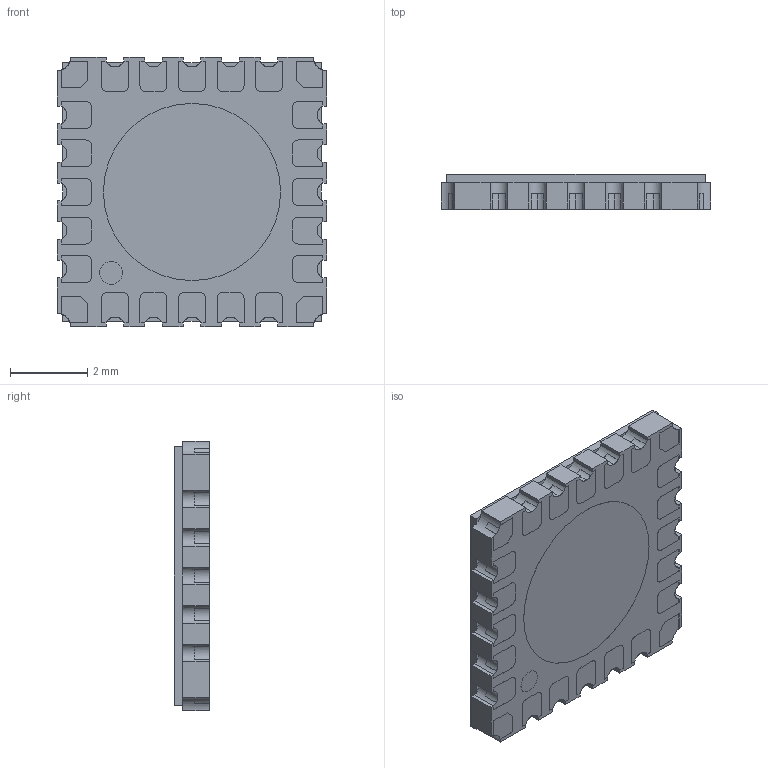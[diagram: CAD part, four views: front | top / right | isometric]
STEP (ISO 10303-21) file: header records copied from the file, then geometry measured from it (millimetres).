
FILE_DESCRIPTION (( 'STEP AP214' ), '1' );
FILE_NAME ('LZ7-04MU00-P3_RevA1.STEP', '2016-03-24T01:48:41', ( '' ), ( '' ), 'SwSTEP 2.0', 'SolidWorks 2014', '' );
FILE_SCHEMA (( 'AUTOMOTIVE_DESIGN' ));
Length unit declared in the file: millimetre
Products named in the file (3): LZ7-04MU00-P3_RevA1; Model_LZ7_Flat-Glass_Lens(KC-LI0141829-A)_cpy_01-27-16; LZ7_Single-Ceramic_with_Dies
Assembly tree (2 placements, depth 2):
  LZ7-04MU00-P3_RevA1
    LZ7_Single-Ceramic_with_Dies
    Model_LZ7_Flat-Glass_Lens(KC-LI0141829-A)_cpy_01-27-16
Bounding box: 7 x 0.91 x 7 mm (x, y, z)
Volume: 34.6 mm3; surface area: 305.7 mm2
Topology: 43 solids, 43 shells, 714 faces, 1881 edges, 1254 vertices
Faces by surface type: plane 491, cylinder 164, bspline 59
Entity records: 29258 total; most frequent: CARTESIAN_POINT 6993, ORIENTED_EDGE 3762, DIRECTION 3507, EDGE_CURVE 1881, VECTOR 1339, LINE 1339, VERTEX_POINT 1254, AXIS2_PLACEMENT_3D 1084
